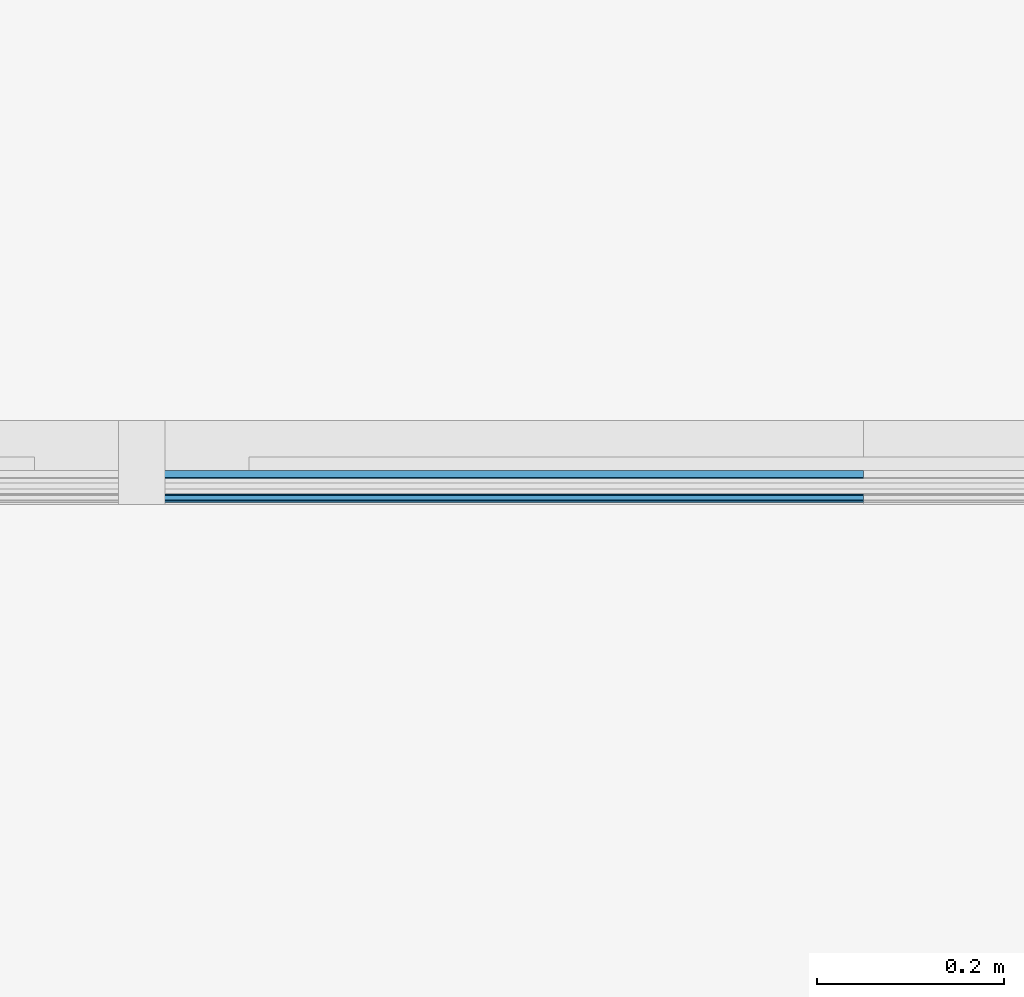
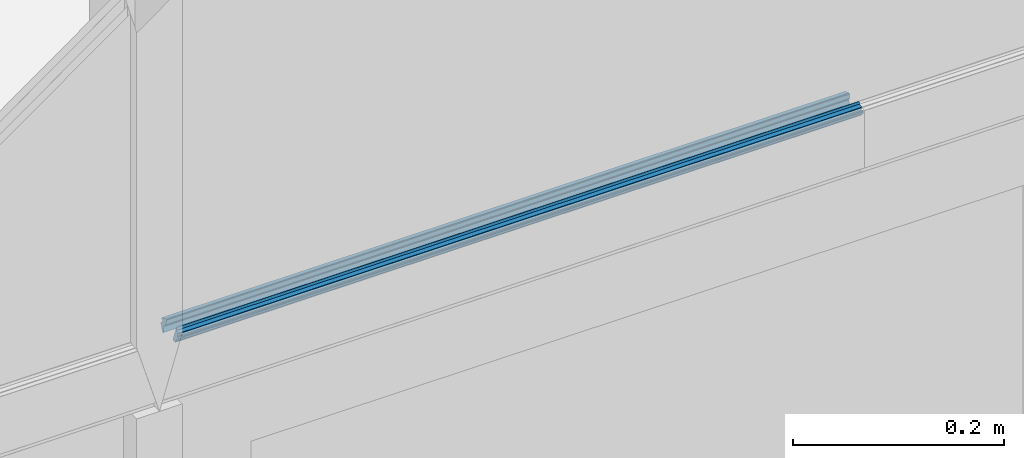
# One storey, part 34 of 69: 1 building element part, 2 elements without a shape of their own.
"""IFC2X3 building model written with IfcOpenShell, lengths in millimetres."""

from ifc_helpers import new_model, entity, si_unit, converted_unit, derived_unit, money_unit, direction, frame, origin_with_axes, place, context, subcontext, project, spatial, faceted_brep, material, type_object, element, aggregate, save


model = new_model("IFC2X3")

# Units and contexts
model_context = context("Model", 3, precision=0.01, world=origin_with_axes(), true_north=direction((0.0, 1.0)))
body_context = subcontext(model_context, "Body", "Model", "MODEL_VIEW")
ifc_project = project(units=[si_unit("LENGTHUNIT", "METRE", prefix="MILLI"), si_unit("AREAUNIT", "SQUARE_METRE"), si_unit("VOLUMEUNIT", "CUBIC_METRE"), converted_unit("PLANEANGLEUNIT", "DEGREE", entity("IfcPlaneAngleMeasure", 0.0174532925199), si_unit("PLANEANGLEUNIT", "RADIAN"), dimensions=[0, 0, 0, 0, 0, 0, 0]), si_unit("SOLIDANGLEUNIT", "STERADIAN"), money_unit("EUR"), converted_unit("TIMEUNIT", "Year", entity("IfcTimeMeasure", 31556926.0), si_unit("TIMEUNIT", "SECOND"), dimensions=[0, 0, 1, 0, 0, 0, 0]), si_unit("MASSUNIT", "GRAM", prefix="KILO"), si_unit("THERMODYNAMICTEMPERATUREUNIT", "DEGREE_CELSIUS"), si_unit("LUMINOUSINTENSITYUNIT", "LUMEN"), si_unit("ENERGYUNIT", "JOULE", prefix="MEGA"), derived_unit("THERMALCONDUCTANCEUNIT", [(si_unit("POWERUNIT", "WATT"), 1), (si_unit("LENGTHUNIT", "METRE"), -1), (si_unit("THERMODYNAMICTEMPERATUREUNIT", "KELVIN"), -1)]), derived_unit("SPECIFICHEATCAPACITYUNIT", [(si_unit("ENERGYUNIT", "JOULE"), 1), (si_unit("MASSUNIT", "GRAM", prefix="KILO"), -1), (si_unit("THERMODYNAMICTEMPERATUREUNIT", "KELVIN"), -1)]), derived_unit("MASSDENSITYUNIT", [(si_unit("MASSUNIT", "GRAM", prefix="KILO"), 1), (si_unit("VOLUMEUNIT", "CUBIC_METRE"), -1)])], contexts=[model_context])

# Site, building, storey
site_placement = place(None, origin_with_axes())
site = spatial("IfcSite", under=ifc_project, at=site_placement, Name="Puškini 31, Narva", CompositionType="ELEMENT")
building_placement = place(site_placement, origin_with_axes())
building = spatial("IfcBuilding", under=site, at=building_placement, Name="Narva Riigigümnaasium", CompositionType="ELEMENT")
storey_placement = place(building_placement, origin_with_axes())
storey = spatial("IfcBuildingStorey", under=building, at=storey_placement, Name="1.korrus 0.00", CompositionType="ELEMENT", Elevation=0.0)

# Curtain wall, member, building element part
curtain_wall_type = type_object("IfcCurtainWallType", Name="Curtain Wall Type", PredefinedType="NOTDEFINED")
curtain_wall_placement = place(storey_placement, frame((18229.9603698, 152620.000001, -0.397158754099), z_axis=(0.0, 0.0, 1.0), x_axis=(1.0, 0.0, 0.0)))
curtain_wall = element("IfcCurtainWall", 1, at=curtain_wall_placement, inside=storey, type_object=curtain_wall_type, Name="G-KLF-01-1")
member_type = type_object("IfcMemberType", Name="82 x 35", PredefinedType="MULLION")
member_placement = place(curtain_wall_placement, frame((1882.40686752, 0.0, 2400.00003439), z_axis=(-1.0, 0.0, 0.0), x_axis=(0.0, 0.0, 1.0)))
member = element("IfcMember", 2, at=member_placement, type_object=member_type, Name="G-SKLF-01-raam", ObjectType="MULLION")
aggregate(curtain_wall, [member])
ifc_material = material(Name="Membraan - Veekindel")
building_element_part_placement = place(member_placement, origin_with_axes())
building_element_part = element("IfcBuildingElementPart", 3, at=building_element_part_placement, material=ifc_material, Name="Membraan - Veekindel", context=body_context, shape_type="Brep", body=[
    faceted_brep([(74.9898926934, -16.6230552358, 0.0), (74.9898926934, -16.6230552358, 750.922081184), (72.7204882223, -15.0100099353, 751.610908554), (72.7204882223, -15.0100099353, 0.0), (77.1927259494, -16.806401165, 0.0), (77.1927259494, -16.806401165, 750.25346003), (79.5038972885, -16.8013439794, 749.551955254), (80.1029794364, -16.6395947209, 749.370117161), (80.5411647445, -16.2002134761, 749.237115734), (80.7012805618, -15.6006926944, 749.188516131), (80.5405112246, -15.001346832, 749.237314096), (78.7418652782, -10.0036443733, 749.783253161), (78.4882789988, -8.54540440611, 749.860223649), (78.4207620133, -8.40475732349, 749.880716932), (78.2917480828, -8.3170330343, 749.919876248), (78.1361285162, -8.30595622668, 749.967111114), (76.7361285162, -8.57808865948, 750.392050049), (76.601588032, -8.64188392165, 750.432886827), (76.5142922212, -8.76250903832, 750.459383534), (76.4957458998, -8.91024871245, 750.465012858), (76.6099827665, -9.81277248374, 750.430338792), (76.5838261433, -9.97813443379, 750.438278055), (76.4731258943, -10.1037298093, 750.471878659), (76.3123574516, -10.1504443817, 750.520676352), (74.2580290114, -10.1504443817, 751.144222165), (74.0859560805, -10.096189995, 751.196451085), (73.9761212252, -9.95305042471, 751.229789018), (73.5556584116, -8.79783833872, 751.357411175), (73.4722984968, -8.67558063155, 751.382713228), (73.3406152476, -8.60808734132, 751.422682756), (73.192689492, -8.61180126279, 751.467582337), (73.0645590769, -8.68581760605, 751.506473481), (66.8142070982, -15.4145273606, 753.403629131), (66.5501763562, -15.7474287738, 753.483769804), (66.5093924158, -16.1703616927, 753.496148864), (66.7049453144, -16.5475813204, 753.436793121), (67.0740702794, -16.7580150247, 753.324753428), (67.4982927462, -16.7341218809, 753.195990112), (71.7536994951, -15.2121692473, 751.90435582), (72.0437237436, -15.0307647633, 751.816325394), (72.2558878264, -14.9074571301, 751.751927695), (72.5011668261, -14.8999349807, 751.677478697), (72.5011668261, -14.8999349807, 0.0), (72.2558878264, -14.9074571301, 0.0), (72.0437237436, -15.0307647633, 0.0), (71.7536994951, -15.2121692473, 0.0), (67.4982927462, -16.7341218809, 0.0), (67.0740702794, -16.7580150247, 0.0), (66.7049453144, -16.5475813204, 0.0), (66.5093924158, -16.1703616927, 0.0), (66.5501763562, -15.7474287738, 0.0), (66.8142070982, -15.4145273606, 0.0), (73.0645590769, -8.68581760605, 0.0), (73.192689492, -8.61180126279, 0.0), (73.3406152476, -8.60808734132, 0.0), (73.4722984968, -8.67558063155, 0.0), (73.5556584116, -8.79783833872, 0.0), (73.9761212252, -9.95305042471, 0.0), (74.0859560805, -10.096189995, 0.0), (74.2580290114, -10.1504443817, 0.0), (76.3123574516, -10.1504443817, 0.0), (76.4731258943, -10.1037298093, 0.0), (76.5838261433, -9.97813443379, 0.0), (76.6099827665, -9.81277248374, 0.0), (76.4957458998, -8.91024871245, 0.0), (76.5142922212, -8.76250903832, 0.0), (76.601588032, -8.64188392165, 0.0), (76.7361285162, -8.57808865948, 0.0), (78.1361285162, -8.30595622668, 0.0), (78.2917480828, -8.3170330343, 0.0), (78.4207620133, -8.40475732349, 0.0), (78.4882789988, -8.54540440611, 0.0), (78.7418652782, -10.0036443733, 0.0), (80.5405112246, -15.001346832, 0.0), (80.7012805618, -15.6006926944, 0.0), (80.5411647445, -16.2002134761, 0.0), (80.1029794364, -16.6395947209, 0.0), (79.5038972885, -16.8013439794, 0.0)], [[[0, 1, 2, 3]], [[4, 5, 1, 0]], [[1, 5, 6, 7, 8, 9, 10, 11, 12, 13, 14, 15, 16, 17, 18, 19, 20, 21, 22, 23, 24, 25, 26, 27, 28, 29, 30, 31, 32, 33, 34, 35, 36, 37, 38, 39, 40, 41, 2]], [[3, 2, 41, 42]], [[0, 3, 42, 43, 44, 45, 46, 47, 48, 49, 50, 51, 52, 53, 54, 55, 56, 57, 58, 59, 60, 61, 62, 63, 64, 65, 66, 67, 68, 69, 70, 71, 72, 73, 74, 75, 76, 77, 4]], [[77, 6, 5, 4]], [[76, 7, 6, 77]], [[75, 8, 7, 76]], [[74, 9, 8, 75]], [[73, 10, 9, 74]], [[72, 11, 10, 73]], [[71, 12, 11, 72]], [[70, 13, 12, 71]], [[69, 14, 13, 70]], [[68, 15, 14, 69]], [[67, 16, 15, 68]], [[66, 17, 16, 67]], [[65, 18, 17, 66]], [[64, 19, 18, 65]], [[63, 20, 19, 64]], [[62, 21, 20, 63]], [[61, 22, 21, 62]], [[60, 23, 22, 61]], [[59, 24, 23, 60]], [[58, 25, 24, 59]], [[57, 26, 25, 58]], [[56, 27, 26, 57]], [[55, 28, 27, 56]], [[54, 29, 28, 55]], [[53, 30, 29, 54]], [[52, 31, 30, 53]], [[51, 32, 31, 52]], [[50, 33, 32, 51]], [[49, 34, 33, 50]], [[48, 35, 34, 49]], [[47, 36, 35, 48]], [[46, 37, 36, 47]], [[45, 38, 37, 46]], [[44, 39, 38, 45]], [[43, 40, 39, 44]], [[42, 41, 40, 43]]]),
    faceted_brep([(72.8904310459, -42.4618935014, 0.0), (72.8904310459, -42.4618935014, 751.559326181), (71.6876987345, -41.3119145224, 751.924388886), (71.6876987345, -41.3119145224, 0.0), (73.0818844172, -42.5, 0.0), (73.0818844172, -42.5, 751.501214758), (74.717932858, -42.5, 751.004628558), (74.9093558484, -42.461906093, 750.946526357), (75.0716106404, -42.353428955, 750.897277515), (76.1122970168, -41.3120098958, 750.581400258), (76.1942964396, -41.1583915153, 750.556511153), (76.1771585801, -40.9851032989, 750.561712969), (76.0666568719, -40.8505228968, 750.595253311), (75.9000173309, -40.799988, 750.645833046), (75.800021, -40.799988, 750.676184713), (75.500021, -40.499988, 750.767243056), (75.500021, -39.200012, 750.767243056), (76.5000210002, -39.200012, 750.463715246), (78.5000022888, -39.2000007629, 749.856665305), (78.5000022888, -40.0000359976, 749.856665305), (78.7000161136, -39.9464425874, 749.795955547), (78.8464370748, -39.8000230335, 749.751512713), (78.9000324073, -39.6000097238, 749.735245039), (79.1693613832, -36.5266395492, 749.653496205), (79.6755028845, -35.3629012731, 749.499868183), (80.7800222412, -34.7379988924, 749.164615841), (82.041102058, -34.4928127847, 748.781843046), (82.2412066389, -34.3909158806, 748.721105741), (82.3536959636, -34.1965683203, 748.686962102), (82.3423779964, -33.9722990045, 748.69039742), (82.2108941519, -33.7902637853, 748.730306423), (69.647137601, -33.7902637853, 752.543755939), (68.8997554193, -34.9006000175, 752.770607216), (68.9000321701, -38.9000291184, 752.770523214), (68.9402207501, -39.0500149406, 752.758324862), (69.0500179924, -39.159812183, 752.724998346), (69.2000038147, -39.2000007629, 752.679473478), (71.30004, -39.2000007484, 752.042054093), (72.30004, -39.200012, 751.738526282), (72.30004, -40.499988, 751.738526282), (72.2598476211, -40.649988, 751.750725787), (72.15004, -40.7597956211, 751.784055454), (72.00004, -40.799988, 751.829584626), (71.900046, -40.799988, 751.859935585), (71.7334350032, -40.8505059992, 751.910506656), (71.6229356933, -40.9850466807, 751.94404627), (71.6057623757, -41.1582990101, 751.949258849), (71.6057623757, -41.1582990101, 0.0), (71.6229356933, -40.9850466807, 0.0), (71.7334350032, -40.8505059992, 0.0), (71.900046, -40.799988, 0.0), (72.00004, -40.799988, 0.0), (72.15004, -40.7597956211, 0.0), (72.2598476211, -40.649988, 0.0), (72.30004, -40.499988, 0.0), (72.30004, -39.200012, 0.0), (71.30004, -39.2000007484, 0.0), (69.2000038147, -39.2000007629, 0.0), (69.0500179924, -39.159812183, 0.0), (68.9402207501, -39.0500149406, 0.0), (68.9000321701, -38.9000291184, 0.0), (68.8997554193, -34.9006000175, 0.0), (69.647137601, -33.7902637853, 0.0), (82.2108941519, -33.7902637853, 0.0), (82.3423779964, -33.9722990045, 0.0), (82.3536959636, -34.1965683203, 0.0), (82.2412066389, -34.3909158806, 0.0), (82.041102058, -34.4928127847, 0.0), (80.7800222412, -34.7379988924, 0.0), (79.6755028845, -35.3629012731, 0.0), (79.1693613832, -36.5266395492, 0.0), (78.9000324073, -39.6000097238, 0.0), (78.8464370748, -39.8000230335, 0.0), (78.7000161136, -39.9464425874, 0.0), (78.5000022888, -40.0000359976, 0.0), (78.5000022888, -39.2000007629, 0.0), (76.5000210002, -39.200012, 0.0), (75.500021, -39.200012, 0.0), (75.500021, -40.499988, 0.0), (75.800021, -40.799988, 0.0), (75.9000173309, -40.799988, 0.0), (76.0666568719, -40.8505228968, 0.0), (76.1771585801, -40.9851032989, 0.0), (76.1942964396, -41.1583915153, 0.0), (76.1122970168, -41.3120098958, 0.0), (75.0716106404, -42.353428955, 0.0), (74.9093558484, -42.461906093, 0.0), (74.717932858, -42.5, 0.0)], [[[0, 1, 2, 3]], [[4, 5, 1, 0]], [[1, 5, 6, 7, 8, 9, 10, 11, 12, 13, 14, 15, 16, 17, 18, 19, 20, 21, 22, 23, 24, 25, 26, 27, 28, 29, 30, 31, 32, 33, 34, 35, 36, 37, 38, 39, 40, 41, 42, 43, 44, 45, 46, 2]], [[3, 2, 46, 47]], [[0, 3, 47, 48, 49, 50, 51, 52, 53, 54, 55, 56, 57, 58, 59, 60, 61, 62, 63, 64, 65, 66, 67, 68, 69, 70, 71, 72, 73, 74, 75, 76, 77, 78, 79, 80, 81, 82, 83, 84, 85, 86, 87, 4]], [[87, 6, 5, 4]], [[86, 7, 6, 87]], [[85, 8, 7, 86]], [[84, 9, 8, 85]], [[83, 10, 9, 84]], [[82, 11, 10, 83]], [[81, 12, 11, 82]], [[80, 13, 12, 81]], [[79, 14, 13, 80]], [[78, 15, 14, 79]], [[77, 16, 15, 78]], [[76, 17, 16, 77]], [[75, 18, 17, 76]], [[74, 19, 18, 75]], [[73, 20, 19, 74]], [[72, 21, 20, 73]], [[71, 22, 21, 72]], [[70, 23, 22, 71]], [[69, 24, 23, 70]], [[68, 25, 24, 69]], [[67, 26, 25, 68]], [[66, 27, 26, 67]], [[65, 28, 27, 66]], [[64, 29, 28, 65]], [[63, 30, 29, 64]], [[62, 31, 30, 63]], [[61, 32, 31, 62]], [[60, 33, 32, 61]], [[59, 34, 33, 60]], [[58, 35, 34, 59]], [[57, 36, 35, 58]], [[56, 37, 36, 57]], [[55, 38, 37, 56]], [[54, 39, 38, 55]], [[53, 40, 39, 54]], [[52, 41, 40, 53]], [[51, 42, 41, 52]], [[50, 43, 42, 51]], [[49, 44, 43, 50]], [[48, 45, 44, 49]], [[47, 46, 45, 48]]]),
])
aggregate(member, [building_element_part])

save(model, "model.ifc")
